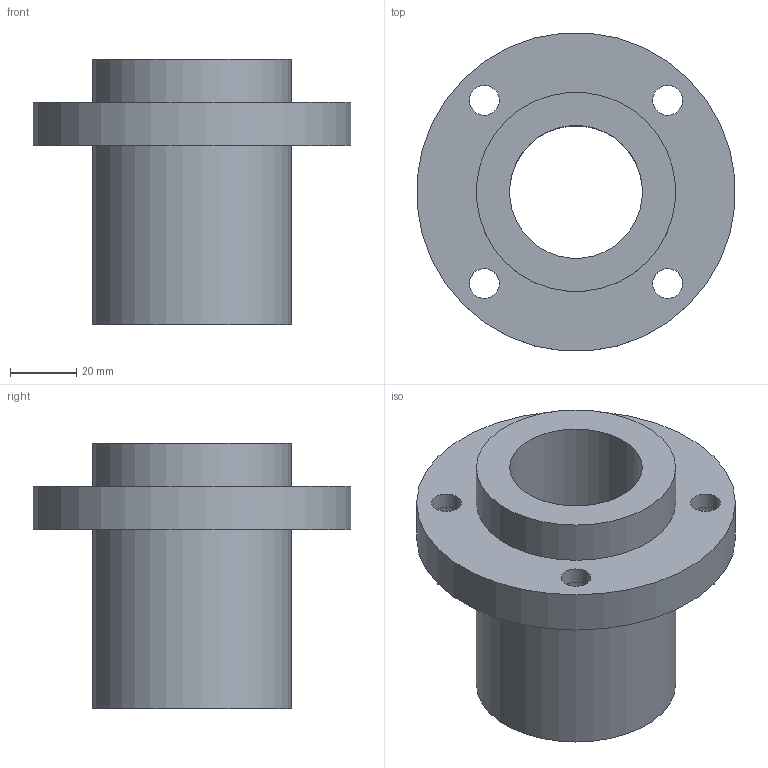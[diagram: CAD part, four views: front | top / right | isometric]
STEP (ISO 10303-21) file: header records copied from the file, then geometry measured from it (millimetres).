
FILE_DESCRIPTION(/* description */ (''),/* implementation_level */ '2;1');
FILE_NAME(/* name */ 'LMFP40UU',/* time_stamp */ '2019-07-03T11:33:54+02:00',/* author */ ('VĂ©gh MĂˇtĂ©'),/* organization */ ('Bearing Kft'),/* preprocessor_version */ 'ST-DEVELOPER v16.7',/* originating_system */ 'DEX',/* authorisation */ $);
FILE_SCHEMA (('AUTOMOTIVE_DESIGN {1 0 10303 214 3 1 1}'));
Length unit declared in the file: millimetre
Products named in the file (1): LMFP40UU
Bounding box: 95.63 x 95.63 x 80 mm (x, y, z)
Volume: 176756.2 mm3; surface area: 40076.4 mm2
Topology: 1 solids, 1 shells, 334 faces, 835 edges, 558 vertices
Faces by surface type: plane 261, bspline 59, cylinder 14
Full cylindrical faces by diameter (mm): 9 x4, 14 x4, 40 x1, 60 x2, 96 x1
Entity records: 13196 total; most frequent: CARTESIAN_POINT 5596, ORIENTED_EDGE 1632, DIRECTION 1278, EDGE_CURVE 816, LINE 670, VECTOR 670, VERTEX_POINT 554, EDGE_LOOP 414
